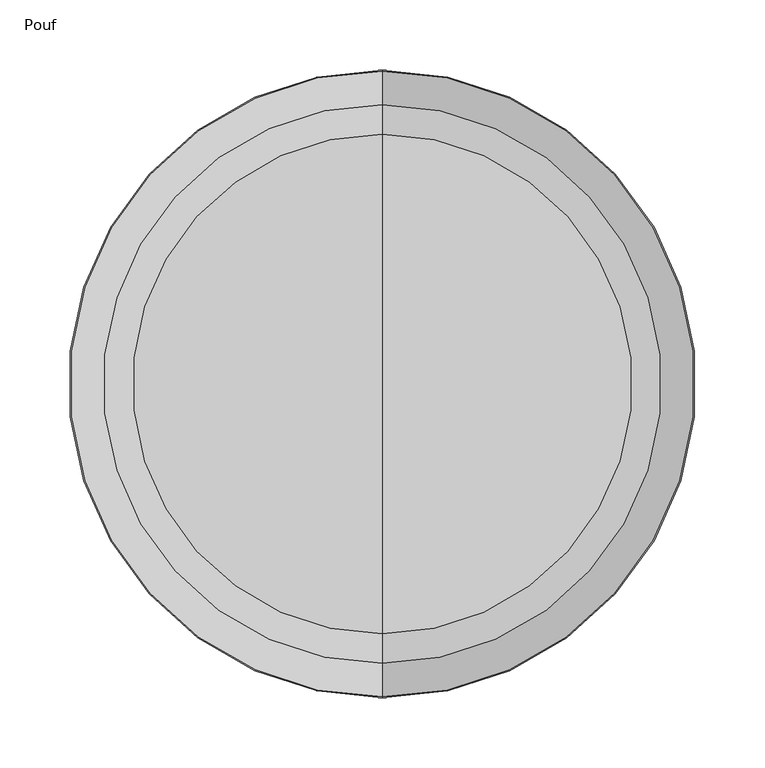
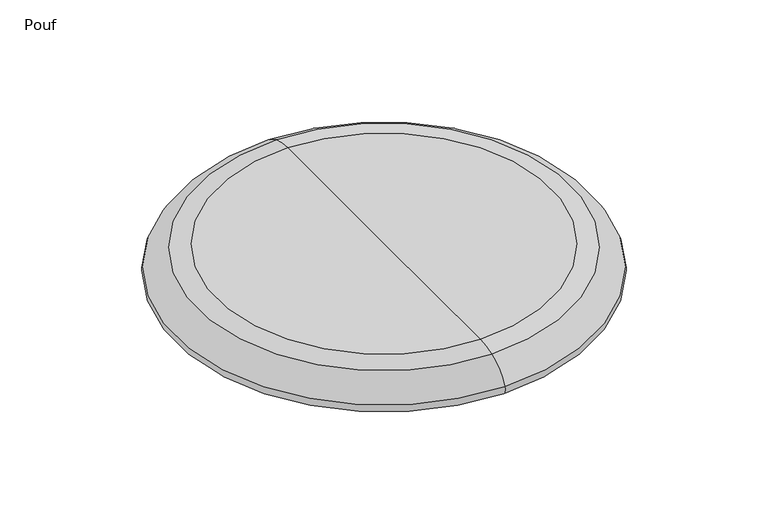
"""IFC4 building model written with IfcOpenShell, lengths in millimetres: furniture geometry, EMU_Accessory_Cushion_Heaven_Pouf_Indoor : Pouf."""

from ifc_helpers import new_model, si_unit, point, frame, origin, place, context, project, spatial, circle_curve, ellipse_curve, trimmed, source, transform, mapped, element, save
from ifc_brep_helpers import plane_surface, revolved_surface, advanced_brep


def pouf_d2e2975a(model_context):
    return source(origin(), model_context, "Body", "AdvancedBrep", [
        advanced_brep(
        [(379.835992, -606.4876889, 499.246111), (379.835992, -428.6876889, 499.246111), (379.835992, -784.2876889, 499.246111), (379.835992, -826.029946, 463.55), (379.835992, -386.9454317, 463.55), (379.835992, -606.4876889, 463.55), (379.835992, -829.3163402, 473.2569312), (379.835992, -383.6590376, 473.2569312), (379.835992, -805.4899823, 495.4400919), (379.835992, -407.4853954, 495.4400919)],
        [
            (0, 1),
            (1, 2, circle_curve(frame((379.835992, -606.4876889, 499.246111), z_axis=(0.0, 0.0, 1.0), x_axis=(0.0, 1.0, 0.0)), 177.8)),
            (2, 0),
            (2, 1, circle_curve(frame((379.835992, -606.4876889, 499.246111), z_axis=(0.0, 0.0, 1.0), x_axis=(0.0, 1.0, 0.0)), 177.8)),
            (3, 4, circle_curve(frame((379.835992, -606.4876889, 463.55), z_axis=(0.0, 0.0, -1.0), x_axis=(0.0, 1.0, 0.0)), 219.5422571)),
            (4, 5),
            (5, 3),
            (4, 3, circle_curve(frame((379.835992, -606.4876889, 463.55), z_axis=(0.0, 0.0, -1.0), x_axis=(0.0, 1.0, 0.0)), 219.5422571)),
            (6, 7, circle_curve(frame((379.835992, -606.4876889, 473.2569312), z_axis=(0.0, 0.0, -1.0), x_axis=(0.0, 1.0, 0.0)), 222.8286513)),
            (7, 4, circle_curve(frame((379.835992, -390.4799736, 470.1564492), z_axis=(-1.0, 0.0, 0.0), x_axis=(0.0, -1.0, 0.0)), 7.4925401)),
            (3, 6, circle_curve(frame((379.835992, -822.4954041, 470.1564492), z_axis=(-1.0, 0.0, 0.0), x_axis=(0.0, 1.0, 0.0)), 7.4925401)),
            (7, 6, circle_curve(frame((379.835992, -606.4876889, 473.2569312), z_axis=(0.0, 0.0, -1.0), x_axis=(0.0, 1.0, 0.0)), 222.8286513)),
            (8, 9, circle_curve(frame((379.835992, -606.4876889, 495.4400919), z_axis=(0.0, 0.0, -1.0), x_axis=(0.0, 1.0, 0.0)), 199.0022934)),
            (9, 7, circle_curve(frame((379.835992, -422.2166368, 455.7304304), z_axis=(-1.0, 0.0, 0.0), x_axis=(0.0, -1.0, 0.0)), 42.3540635)),
            (6, 8, circle_curve(frame((379.835992, -790.7587409, 455.7304304), z_axis=(-1.0, 0.0, 0.0), x_axis=(0.0, 1.0, 0.0)), 42.3540635)),
            (9, 8, circle_curve(frame((379.835992, -606.4876889, 495.4400919), z_axis=(0.0, 0.0, -1.0), x_axis=(0.0, 1.0, 0.0)), 199.0022934)),
            (1, 9, circle_curve(frame((379.835992, -428.6876889, 438.2870068), z_axis=(-1.0, 0.0, 0.0), x_axis=(0.0, -1.0, 0.0)), 60.9591042)),
            (8, 2, circle_curve(frame((379.835992, -784.2876889, 438.2870068), z_axis=(-1.0, 0.0, 0.0), x_axis=(0.0, 1.0, 0.0)), 60.9591042)),
        ],
        [
            plane_surface(frame((379.835992, -606.4876889, 499.246111), z_axis=(0.0, 0.0, 1.0), x_axis=(0.0, 1.0, 0.0))),
            plane_surface(frame((379.835992, -606.4876889, 463.55), z_axis=(0.0, 0.0, -1.0), x_axis=(0.0, 1.0, 0.0))),
            revolved_surface(trimmed(ellipse_curve(frame((379.835992, -390.4799736, 470.1564492), z_axis=(1.0, 0.0, 0.0), x_axis=(0.0, -1.0, 0.0)), 7.4925401, 7.4925401), [point((379.835992, -386.9454317, 463.55))], [point((379.835992, -383.6590376, 473.2569312))], True, "CARTESIAN"), (379.835992, -606.4876889, 511.946111), (0.0, 0.0, 1.0)),
            revolved_surface(trimmed(ellipse_curve(frame((379.835992, -422.2166368, 455.7304304), z_axis=(1.0, 0.0, 0.0), x_axis=(0.0, -1.0, 0.0)), 42.3540635, 42.3540635), [point((379.835992, -383.6590376, 473.2569312))], [point((379.835992, -407.4853954, 495.4400919))], True, "CARTESIAN"), (379.835992, -606.4876889, 511.946111), (0.0, 0.0, 1.0)),
            revolved_surface(trimmed(ellipse_curve(frame((379.835992, -428.6876889, 438.2870068), z_axis=(1.0, 0.0, 0.0), x_axis=(0.0, -1.0, 0.0)), 60.9591042, 60.9591042), [point((379.835992, -407.4853954, 495.4400919))], [point((379.835992, -428.6876889, 499.246111))], True, "CARTESIAN"), (379.835992, -606.4876889, 511.946111), (0.0, 0.0, 1.0)),
        ],
        [
            (0, [[1, 2, 3]]),
            (0, [[-3, 4, -1]]),
            (1, [[5, 6, 7]]),
            (1, [[8, -7, -6]]),
            (2, [[9, 10, -5, 11]]),
            (2, [[12, -11, -8, -10]]),
            (3, [[13, 14, -9, 15]]),
            (3, [[16, -15, -12, -14]]),
            (4, [[-2, 17, -13, 18]]),
            (4, [[-4, -18, -16, -17]]),
        ],
    ),
    ])


if __name__ == "__main__":
    model = new_model("IFC4")
    model_context = context("Model", 3, world=origin())
    ifc_project = project(units=[si_unit("LENGTHUNIT", "METRE", prefix="MILLI")], contexts=[model_context])
    site = spatial("IfcSite", under=ifc_project)
    building = spatial("IfcBuilding", under=site)
    placement = place(None, origin())
    pouf_shape = pouf_d2e2975a(model_context)
    element("IfcFurniture", 1, ObjectType="EMU_Accessory_Cushion_Heaven_Pouf_Indoor : Pouf", at=placement, inside=building, context=model_context, shape_type="MappedRepresentation", body=[
        mapped(pouf_shape, transform((0.0, 0.0, 0.0), x_axis=(1.0, 0.0, 0.0), y_axis=(0.0, 1.0, 0.0), z_axis=(0.0, 0.0, 1.0))),
    ])
    save(model, "model.ifc")
